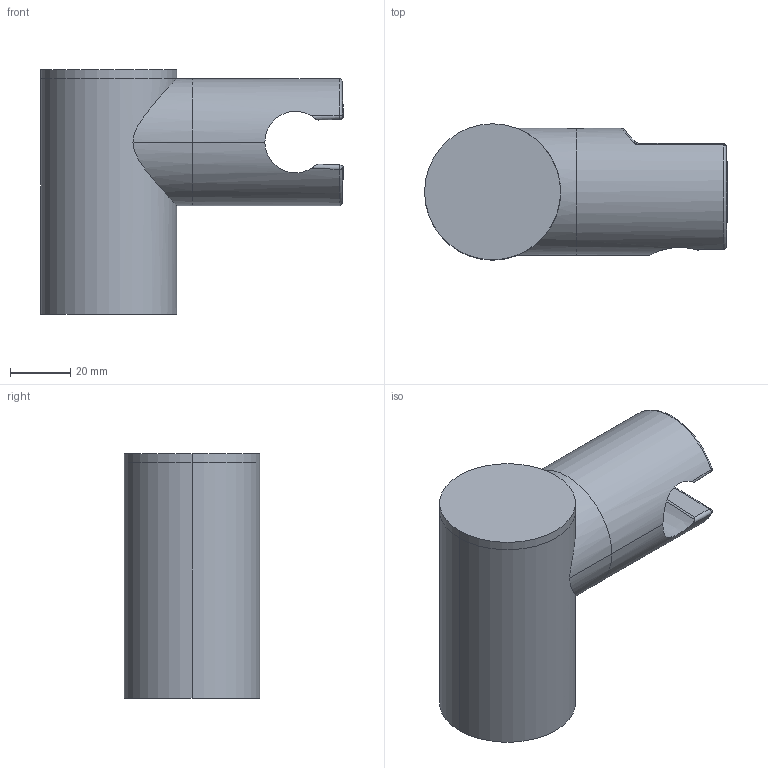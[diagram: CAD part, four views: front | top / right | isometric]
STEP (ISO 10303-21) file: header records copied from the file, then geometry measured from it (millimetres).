
FILE_DESCRIPTION((''),'2;1');
FILE_NAME('76609_GEN_SUB01_ASM','2026-10-14T13:38:34',('simi1'),(''),'CREO PARAMETRIC BY PTC INC, 2022244','CREO PARAMETRIC BY PTC INC, 2022244','');
FILE_SCHEMA(('CONFIG_CONTROL_DESIGN'));
Length unit declared in the file: millimetre
Products named in the file (9): 76609_POS11; 76609_POS10; 76609_POS9; 76609_POS8; 76609_POS7; 76609_POS2; 76609_POS1; 76609_SOLEX_IGS_ASM; 76609_GEN_SUB01_ASM
Assembly tree (8 placements, depth 3):
  76609_GEN_SUB01_ASM
    76609_SOLEX_IGS_ASM
      76609_POS11
      76609_POS10
      76609_POS9
      76609_POS8
      76609_POS7
      76609_POS2
      76609_POS1
Bounding box: 100.21 x 45 x 81 mm (x, y, z)
Volume: 94680.6 mm3; surface area: 51837.7 mm2
Topology: 15 solids, 15 shells, 270 faces, 663 edges, 439 vertices
Faces by surface type: cylinder 121, plane 102, bspline 20, torus 16, sphere 6, cone 5
Entity records: 11444 total; most frequent: CARTESIAN_POINT 4973, ORIENTED_EDGE 1322, DIRECTION 1291, EDGE_CURVE 661, AXIS2_PLACEMENT_3D 519, VERTEX_POINT 439, EDGE_LOOP 302, FACE_OUTER_BOUND 270
